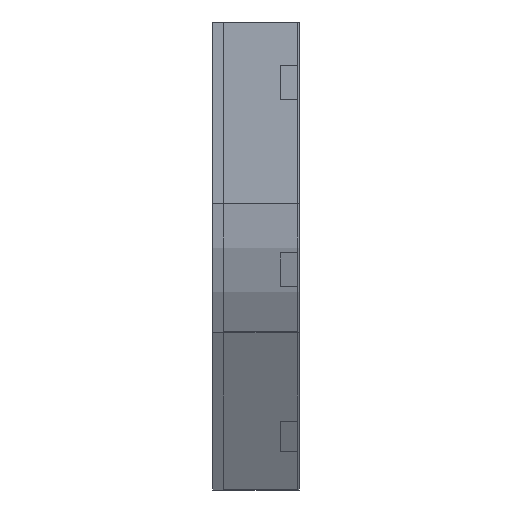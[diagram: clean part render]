
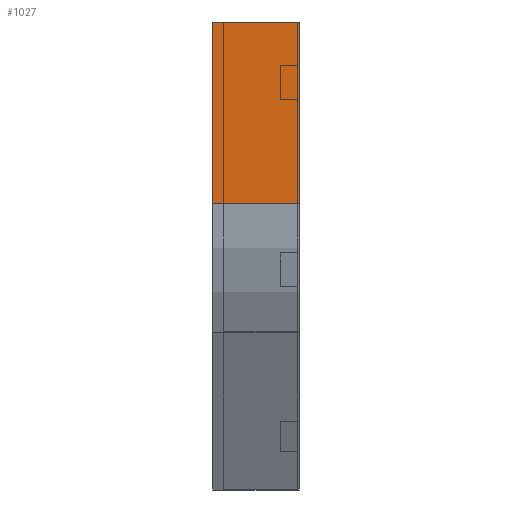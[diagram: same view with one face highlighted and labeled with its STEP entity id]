
A CAD part, left-side view. The second image highlights one B-rep face of the part: STEP entity #1027.
In plain terms, the highlighted planar face has unit normal (-1, 0, 0).
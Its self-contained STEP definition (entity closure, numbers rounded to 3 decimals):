
#95 = VECTOR ( 'NONE', #1108, 1000. ) ;
#152 = DIRECTION ( 'NONE',  ( 0., 0., -1. ) ) ;
#161 = ORIENTED_EDGE ( 'NONE', *, *, #1159, .T. ) ;
#203 = VECTOR ( 'NONE', #1197, 1000. ) ;
#291 = DIRECTION ( 'NONE',  ( 1., 0., 0. ) ) ;
#334 = CARTESIAN_POINT ( 'NONE',  ( 0., 100., 0. ) ) ;
#391 = EDGE_CURVE ( 'NONE', #1402, #1431, #1388, .T. ) ;
#424 = PLANE ( 'NONE',  #785 ) ;
#448 = VERTEX_POINT ( 'NONE', #1125 ) ;
#476 = EDGE_CURVE ( 'NONE', #448, #1431, #1152, .T. ) ;
#526 = EDGE_LOOP ( 'NONE', ( #1131, #1827, #161, #886 ) ) ;
#571 = CARTESIAN_POINT ( 'NONE',  ( 0., 100., 0. ) ) ;
#605 = CARTESIAN_POINT ( 'NONE',  ( 0., 0., -210.77 ) ) ;
#619 = LINE ( 'NONE', #334, #1331 ) ;
#755 = VECTOR ( 'NONE', #1455, 1000. ) ;
#773 = CARTESIAN_POINT ( 'NONE',  ( 0., 0., 0. ) ) ;
#785 = AXIS2_PLACEMENT_3D ( 'NONE', #1585, #291, #152 ) ;
#843 = CARTESIAN_POINT ( 'NONE',  ( 0., 0., 0. ) ) ;
#860 = FACE_OUTER_BOUND ( 'NONE', #526, .T. ) ;
#886 = ORIENTED_EDGE ( 'NONE', *, *, #476, .T. ) ;
#1025 = CARTESIAN_POINT ( 'NONE',  ( 0., 0., -210.77 ) ) ;
#1027 = ADVANCED_FACE ( 'NONE', ( #860 ), #424, .F. ) ;
#1049 = DIRECTION ( 'NONE',  ( 0., 0., -1. ) ) ;
#1075 = LINE ( 'NONE', #773, #203 ) ;
#1108 = DIRECTION ( 'NONE',  ( 0., 0., -1. ) ) ;
#1125 = CARTESIAN_POINT ( 'NONE',  ( 0., 100., -210.77 ) ) ;
#1131 = ORIENTED_EDGE ( 'NONE', *, *, #391, .F. ) ;
#1152 = LINE ( 'NONE', #1025, #755 ) ;
#1159 = EDGE_CURVE ( 'NONE', #1407, #448, #619, .T. ) ;
#1197 = DIRECTION ( 'NONE',  ( 0., -1., 0. ) ) ;
#1273 = CARTESIAN_POINT ( 'NONE',  ( 0., 0., 0. ) ) ;
#1331 = VECTOR ( 'NONE', #1049, 1000. ) ;
#1388 = LINE ( 'NONE', #843, #95 ) ;
#1402 = VERTEX_POINT ( 'NONE', #1273 ) ;
#1407 = VERTEX_POINT ( 'NONE', #571 ) ;
#1431 = VERTEX_POINT ( 'NONE', #605 ) ;
#1447 = EDGE_CURVE ( 'NONE', #1407, #1402, #1075, .T. ) ;
#1455 = DIRECTION ( 'NONE',  ( 0., -1., 0. ) ) ;
#1585 = CARTESIAN_POINT ( 'NONE',  ( 0., 0., 0. ) ) ;
#1827 = ORIENTED_EDGE ( 'NONE', *, *, #1447, .F. ) ;
